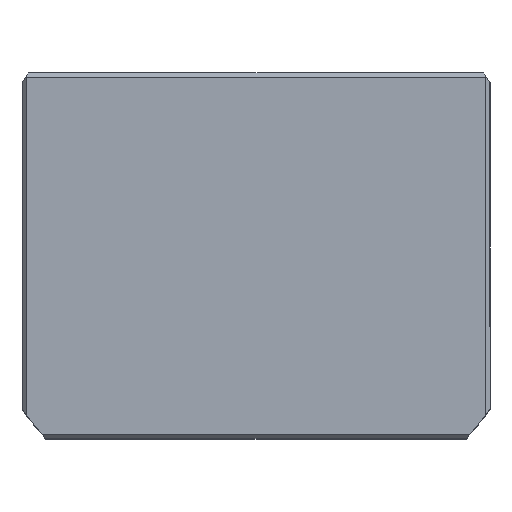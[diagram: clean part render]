
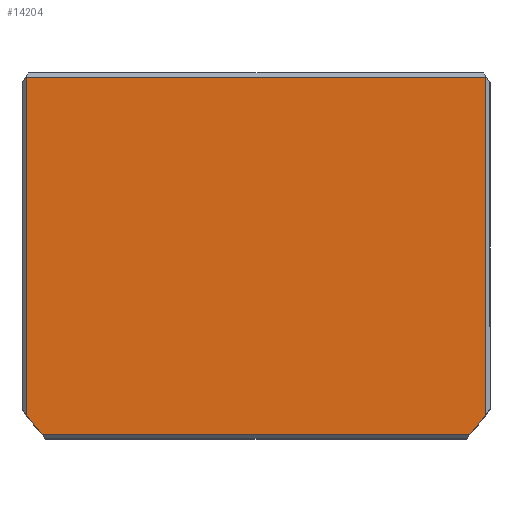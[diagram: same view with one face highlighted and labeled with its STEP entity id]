
A CAD part, top view. The second image highlights one B-rep face of the part: STEP entity #14204.
In plain terms, the highlighted planar face has unit normal (0, 0, 1) as drawn and (0, 0, -1) by its records, which use the part's own axes.
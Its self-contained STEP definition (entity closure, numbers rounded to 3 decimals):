
#280 = EDGE_CURVE ( 'NONE', #10967, #7708, #12572, .T. ) ;
#448 = DIRECTION ( 'NONE',  ( 1., 0., 0. ) ) ;
#629 = ORIENTED_EDGE ( 'NONE', *, *, #8176, .T. ) ;
#1336 = ORIENTED_EDGE ( 'NONE', *, *, #280, .T. ) ;
#1724 = EDGE_CURVE ( 'NONE', #12662, #10789, #3790, .T. ) ;
#1758 = CARTESIAN_POINT ( 'NONE',  ( 0., 43.5, 0. ) ) ;
#2050 = CARTESIAN_POINT ( 'NONE',  ( -52.098, 43.5, 0. ) ) ;
#2155 = DIRECTION ( 'NONE',  ( 1., 0., 0. ) ) ;
#2458 = EDGE_CURVE ( 'NONE', #13603, #10789, #14012, .T. ) ;
#2825 = AXIS2_PLACEMENT_3D ( 'NONE', #9404, #10876, #2155 ) ;
#3107 = AXIS2_PLACEMENT_3D ( 'NONE', #12478, #5567, #5516 ) ;
#3790 = CIRCLE ( 'NONE', #3107, 69.5 ) ;
#3849 = LINE ( 'NONE', #16739, #15014 ) ;
#4444 = CARTESIAN_POINT ( 'NONE',  ( -56., -43.5, 0. ) ) ;
#4458 = AXIS2_PLACEMENT_3D ( 'NONE', #17910, #9157, #448 ) ;
#5024 = PLANE ( 'NONE',  #2825 ) ;
#5210 = ORIENTED_EDGE ( 'NONE', *, *, #6726, .F. ) ;
#5516 = DIRECTION ( 'NONE',  ( 1., 0., 0. ) ) ;
#5567 = DIRECTION ( 'NONE',  ( 0., 0., 1. ) ) ;
#6544 = EDGE_LOOP ( 'NONE', ( #17005, #629, #6755, #1336, #5210, #10924 ) ) ;
#6726 = EDGE_CURVE ( 'NONE', #13603, #7708, #8183, .T. ) ;
#6755 = ORIENTED_EDGE ( 'NONE', *, *, #13676, .T. ) ;
#7004 = VECTOR ( 'NONE', #16695, 1000. ) ;
#7484 = LINE ( 'NONE', #15223, #7004 ) ;
#7708 = VERTEX_POINT ( 'NONE', #10446 ) ;
#8176 = EDGE_CURVE ( 'NONE', #12662, #10420, #3849, .T. ) ;
#8183 = CIRCLE ( 'NONE', #4458, 69.5 ) ;
#8375 = DIRECTION ( 'NONE',  ( 0., 1., 0. ) ) ;
#8597 = FACE_OUTER_BOUND ( 'NONE', #6544, .T. ) ;
#8638 = CARTESIAN_POINT ( 'NONE',  ( 52.098, 43.5, 0. ) ) ;
#9157 = DIRECTION ( 'NONE',  ( 0., 0., 1. ) ) ;
#9404 = CARTESIAN_POINT ( 'NONE',  ( 0., 0., 0. ) ) ;
#10420 = VERTEX_POINT ( 'NONE', #13681 ) ;
#10446 = CARTESIAN_POINT ( 'NONE',  ( -56., 38.661, 0. ) ) ;
#10789 = VERTEX_POINT ( 'NONE', #8638 ) ;
#10876 = DIRECTION ( 'NONE',  ( 0., 0., 1. ) ) ;
#10924 = ORIENTED_EDGE ( 'NONE', *, *, #2458, .T. ) ;
#10967 = VERTEX_POINT ( 'NONE', #4444 ) ;
#12207 = VECTOR ( 'NONE', #16012, 1000. ) ;
#12404 = DIRECTION ( 'NONE',  ( 0., -1., 0. ) ) ;
#12478 = CARTESIAN_POINT ( 'NONE',  ( 0., -2.5, 0. ) ) ;
#12572 = LINE ( 'NONE', #15636, #16006 ) ;
#12662 = VERTEX_POINT ( 'NONE', #14810 ) ;
#13603 = VERTEX_POINT ( 'NONE', #2050 ) ;
#13676 = EDGE_CURVE ( 'NONE', #10420, #10967, #7484, .T. ) ;
#13681 = CARTESIAN_POINT ( 'NONE',  ( 56., -43.5, 0. ) ) ;
#14012 = LINE ( 'NONE', #1758, #12207 ) ;
#14204 = ADVANCED_FACE ( 'NONE', ( #8597 ), #5024, .F. ) ;
#14810 = CARTESIAN_POINT ( 'NONE',  ( 56., 38.661, 0. ) ) ;
#15014 = VECTOR ( 'NONE', #12404, 1000. ) ;
#15223 = CARTESIAN_POINT ( 'NONE',  ( 0., -43.5, 0. ) ) ;
#15636 = CARTESIAN_POINT ( 'NONE',  ( -56., 0., 0. ) ) ;
#16006 = VECTOR ( 'NONE', #8375, 1000. ) ;
#16012 = DIRECTION ( 'NONE',  ( 1., 0., 0. ) ) ;
#16695 = DIRECTION ( 'NONE',  ( -1., 0., 0. ) ) ;
#16739 = CARTESIAN_POINT ( 'NONE',  ( 56., 0., 0. ) ) ;
#17005 = ORIENTED_EDGE ( 'NONE', *, *, #1724, .F. ) ;
#17910 = CARTESIAN_POINT ( 'NONE',  ( 0., -2.5, 0. ) ) ;
